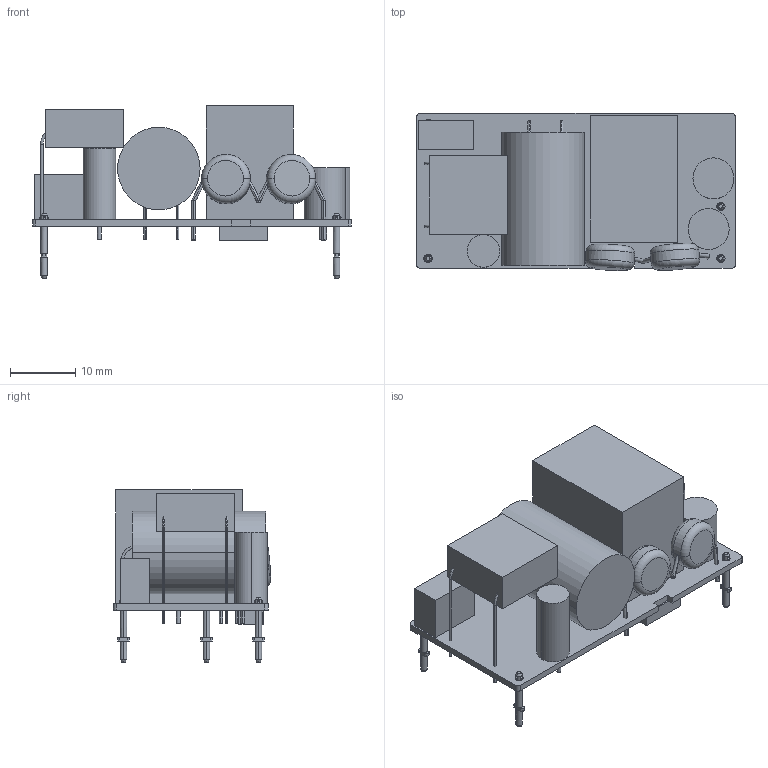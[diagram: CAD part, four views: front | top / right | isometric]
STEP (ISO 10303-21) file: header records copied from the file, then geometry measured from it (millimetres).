
FILE_DESCRIPTION(('Creo Elements/Direct Modeling STEP Export'),'2;1');
FILE_NAME('MFM-15,20.stp','2020-06-04T10:59:44',(''),(''),'PTC Creo Elements/Direct Modeling STEP processor for AP214 (Solid Model)','PTC Creo Elements/Direct Modeling 19.0E 27-Jun-2016 (C) Parametric Technology GmbH','');
FILE_SCHEMA(('AUTOMOTIVE_DESIGN { 1 0 10303 214 1 1 1 1 }'));
Length unit declared in the file: millimetre
Products named in the file (26): PCB.PRT; PCB; SS.PRT; 11.PRT; 11.PRT.1; C5; FS1; C105; C106; Y_1_1.PRT; Y_1_1_1.PRT; C1; 11.PRT.2; 11.PRT.2.1; U2.PRT; PART.ASM; TF1.PRT; C6; PIN1; PIN1.1; PIN1.3; PIN1.2; PIN; PART; MFM-15-20
Assembly tree (25 placements, depth 4):
  MFM-15-20
    PART
      PIN
        PIN1.2
        PIN1.3
        PIN1.1
        PIN1
      C6
      TF1.PRT
      PART.ASM
        U2.PRT
      C1
        11.PRT.2.1
        11.PRT.2
        C1
      Y_1_1_1.PRT
      Y_1_1.PRT
      C106
      C105
      FS1
      C5
        11.PRT.1
        11.PRT
        SS.PRT
    PCB
      PCB.PRT
Bounding box: 49 x 24.17 x 26.5 mm (x, y, z)
Volume: 10564.5 mm3; surface area: 7414 mm2
Topology: 19 solids, 19 shells, 326 faces, 747 edges, 477 vertices
Faces by surface type: plane 146, cylinder 116, cone 48, torus 16
Entity records: 9735 total; most frequent: CARTESIAN_POINT 2317, ORIENTED_EDGE 1494, DIRECTION 1257, EDGE_CURVE 747, AXIS2_PLACEMENT_3D 481, VERTEX_POINT 477, EDGE_LOOP 352, FACE_OUTER_BOUND 326
